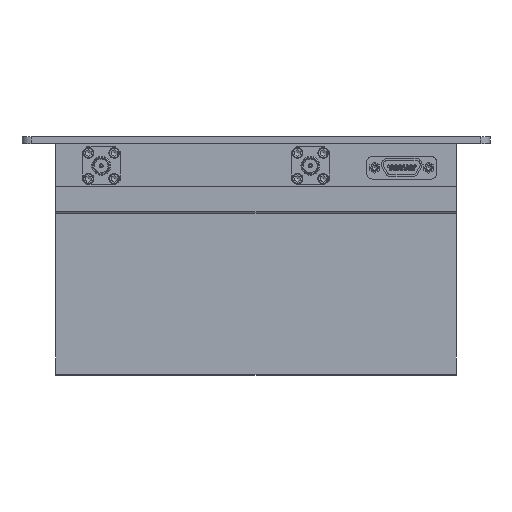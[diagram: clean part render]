
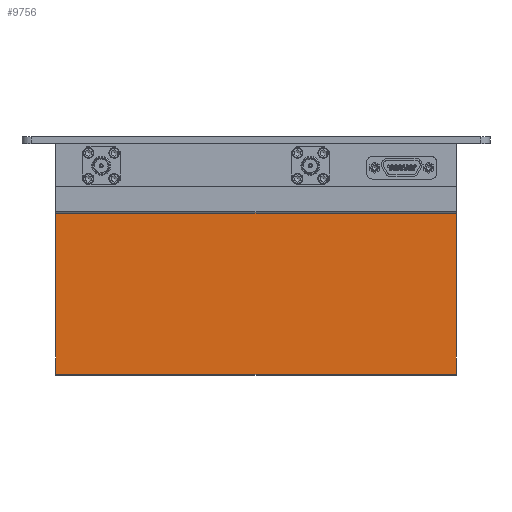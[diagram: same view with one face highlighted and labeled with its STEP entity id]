
A CAD part, front view. The second image highlights one B-rep face of the part: STEP entity #9756.
In plain terms, the highlighted planar face has unit normal (0, -1, -0.005) as drawn and (-1, 0.005, 0) by its records, which use the part's own axes.
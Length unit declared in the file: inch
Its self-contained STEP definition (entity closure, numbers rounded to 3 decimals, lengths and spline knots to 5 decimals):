
#7904=CARTESIAN_POINT('',(4.68237,12.36636,0.0));
#7905=VERTEX_POINT('',#7904);
#7913=CARTESIAN_POINT('',(4.67075,10.23625,0.0));
#7914=VERTEX_POINT('',#7913);
#7915=CARTESIAN_POINT('',(4.68237,12.36636,0.0));
#7916=DIRECTION('',(-0.005,-1.,0.0));
#7917=VECTOR('',#7916,2.13015);
#7918=LINE('',#7915,#7917);
#7919=EDGE_CURVE('',#7905,#7914,#7918,.T.);
#7967=CARTESIAN_POINT('',(4.67075,10.23625,-5.3));
#7968=VERTEX_POINT('',#7967);
#7976=CARTESIAN_POINT('',(4.68237,12.36636,-5.3));
#7977=VERTEX_POINT('',#7976);
#7978=CARTESIAN_POINT('',(4.68237,12.36636,-5.3));
#7979=DIRECTION('',(-0.005,-1.,0.0));
#7980=VECTOR('',#7979,2.13015);
#7981=LINE('',#7978,#7980);
#7982=EDGE_CURVE('',#7977,#7968,#7981,.T.);
#9729=CARTESIAN_POINT('',(4.68237,12.36636,-5.3));
#9730=DIRECTION('',(0.0,0.0,1.0));
#9731=VECTOR('',#9730,5.3);
#9732=LINE('',#9729,#9731);
#9733=EDGE_CURVE('',#7977,#7905,#9732,.T.);
#9740=CARTESIAN_POINT('',(4.67075,10.23625,-12.));
#9741=DIRECTION('',(-1.,0.005,0.0));
#9742=DIRECTION('',(0.0,0.0,1.0));
#9743=AXIS2_PLACEMENT_3D('',#9740,#9741,#9742);
#9744=PLANE('',#9743);
#9745=ORIENTED_EDGE('',*,*,#7982,.T.);
#9746=CARTESIAN_POINT('',(4.67075,10.23625,-5.3));
#9747=DIRECTION('',(0.0,0.0,1.0));
#9748=VECTOR('',#9747,5.3);
#9749=LINE('',#9746,#9748);
#9750=EDGE_CURVE('',#7968,#7914,#9749,.T.);
#9751=ORIENTED_EDGE('',*,*,#9750,.T.);
#9752=ORIENTED_EDGE('',*,*,#7919,.F.);
#9753=ORIENTED_EDGE('',*,*,#9733,.F.);
#9754=EDGE_LOOP('',(#9745,#9751,#9752,#9753));
#9755=FACE_OUTER_BOUND('',#9754,.T.);
#9756=ADVANCED_FACE('',(#9755),#9744,.T.);
